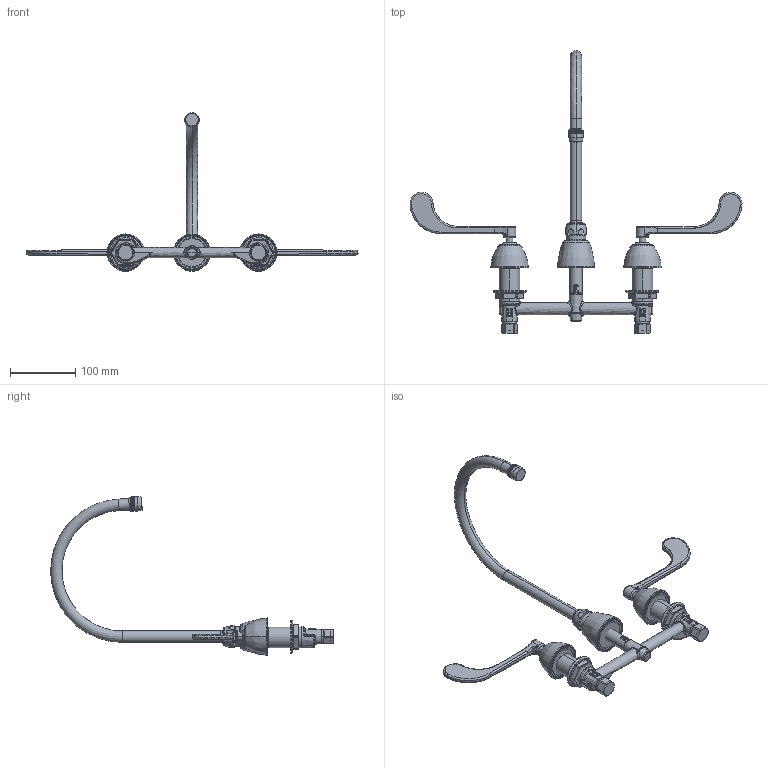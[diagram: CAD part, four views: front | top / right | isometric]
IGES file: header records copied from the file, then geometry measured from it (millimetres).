
Start section:  PTC IGES file: 201-AGN8AE35-319ABCP_REV061511.igs
Global section: file name: 201-AGN8AE35-319ABCP_REV061511.igs; native system: Pro/ENGINEER by Parametric Technology Corporation; preprocessor: 2010230; author: sdmitruk; organization: Unknown; date: 20110615.122354; units: inch
Bounding box: 507.97 x 432.59 x 242.76 mm (x, y, z)
Surface area: 145100.2 mm2 (no closed solid volume)
Topology: 0 solids, 0 shells, 721 faces, 5035 edges, 6726 vertices
Faces by surface type: revolution 382, bspline 339
